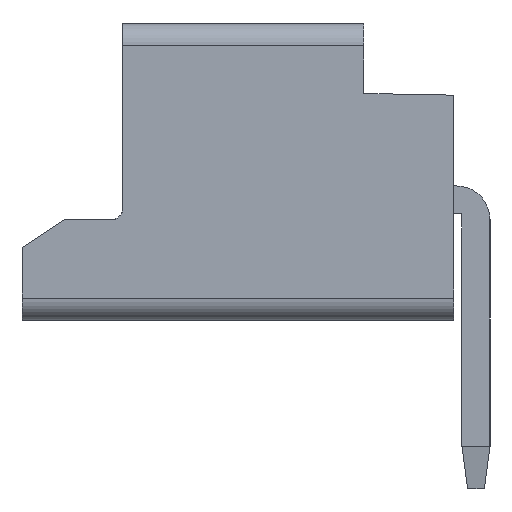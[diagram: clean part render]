
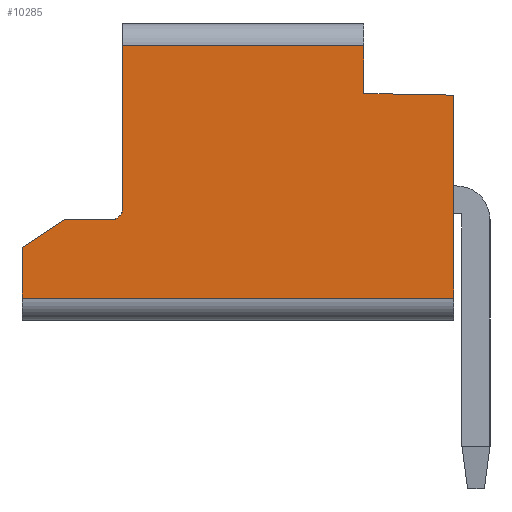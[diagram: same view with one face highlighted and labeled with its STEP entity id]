
A CAD part, left-side view. The second image highlights one B-rep face of the part: STEP entity #10285.
In plain terms, the highlighted planar face has unit normal (-1, 0, 0).
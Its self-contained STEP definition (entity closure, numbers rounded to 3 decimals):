
#124=CIRCLE('',#10921,0.2);
#967=FACE_OUTER_BOUND('',#1568,.T.);
#1568=EDGE_LOOP('',(#8987,#8988,#8989,#8990,#8991,#8992,#8993,#8994,#8995,
#8996));
#1766=LINE('',#13850,#3087);
#1772=LINE('',#13863,#3093);
#2758=LINE('',#15933,#4079);
#2808=LINE('',#16034,#4129);
#2809=LINE('',#16038,#4130);
#2810=LINE('',#16042,#4131);
#2852=LINE('',#16132,#4173);
#2853=LINE('',#16137,#4174);
#2854=LINE('',#16138,#4175);
#3087=VECTOR('',#11232,1000.);
#3093=VECTOR('',#11246,1000.);
#4079=VECTOR('',#13142,1000.);
#4129=VECTOR('',#13236,1000.);
#4130=VECTOR('',#13241,1000.);
#4131=VECTOR('',#13246,1000.);
#4173=VECTOR('',#13332,1000.);
#4174=VECTOR('',#13337,1000.);
#4175=VECTOR('',#13338,1000.);
#4370=VERTEX_POINT('',#13847);
#4371=VERTEX_POINT('',#13849);
#4374=VERTEX_POINT('',#13861);
#5003=VERTEX_POINT('',#15932);
#5032=VERTEX_POINT('',#16033);
#5033=VERTEX_POINT('',#16037);
#5034=VERTEX_POINT('',#16041);
#5060=VERTEX_POINT('',#16130);
#5061=VERTEX_POINT('',#16134);
#5062=VERTEX_POINT('',#16136);
#5255=EDGE_CURVE('',#4370,#4371,#1766,.T.);
#5262=EDGE_CURVE('',#4370,#4374,#1772,.T.);
#6286=EDGE_CURVE('',#4371,#5003,#2758,.T.);
#6337=EDGE_CURVE('',#5032,#5003,#2808,.T.);
#6339=EDGE_CURVE('',#5033,#5032,#2809,.T.);
#6341=EDGE_CURVE('',#5033,#5034,#2810,.T.);
#6386=EDGE_CURVE('',#5060,#4374,#2852,.T.);
#6387=EDGE_CURVE('',#5061,#5060,#124,.T.);
#6388=EDGE_CURVE('',#5062,#5061,#2853,.T.);
#6389=EDGE_CURVE('',#5062,#5034,#2854,.T.);
#8987=ORIENTED_EDGE('',*,*,#6386,.F.);
#8988=ORIENTED_EDGE('',*,*,#6387,.F.);
#8989=ORIENTED_EDGE('',*,*,#6388,.F.);
#8990=ORIENTED_EDGE('',*,*,#6389,.T.);
#8991=ORIENTED_EDGE('',*,*,#6341,.F.);
#8992=ORIENTED_EDGE('',*,*,#6339,.T.);
#8993=ORIENTED_EDGE('',*,*,#6337,.T.);
#8994=ORIENTED_EDGE('',*,*,#6286,.F.);
#8995=ORIENTED_EDGE('',*,*,#5255,.F.);
#8996=ORIENTED_EDGE('',*,*,#5262,.T.);
#9722=PLANE('',#10920);
#10285=ADVANCED_FACE('',(#967),#9722,.F.);
#10920=AXIS2_PLACEMENT_3D('',#16133,#13333,#13334);
#10921=AXIS2_PLACEMENT_3D('',#16135,#13335,#13336);
#11232=DIRECTION('',(0.,0.,-1.));
#11246=DIRECTION('',(0.,1.,0.));
#13142=DIRECTION('',(0.,-1.,-0.019));
#13236=DIRECTION('',(0.,0.,1.));
#13241=DIRECTION('',(0.,-1.,0.));
#13246=DIRECTION('',(0.,0.,1.));
#13332=DIRECTION('',(0.,0.,1.));
#13333=DIRECTION('center_axis',(1.,0.,0.));
#13334=DIRECTION('ref_axis',(0.,0.,-1.));
#13335=DIRECTION('center_axis',(-1.,0.,0.));
#13336=DIRECTION('ref_axis',(0.,-0.707,-0.707));
#13337=DIRECTION('',(0.,-1.,0.));
#13338=DIRECTION('',(0.,0.832,-0.555));
#13847=CARTESIAN_POINT('',(-21.292,-1.22,16.25));
#13849=CARTESIAN_POINT('',(-21.292,-1.22,15.4));
#13850=CARTESIAN_POINT('',(-21.292,-1.22,16.65));
#13861=CARTESIAN_POINT('',(-21.292,3.08,16.25));
#13863=CARTESIAN_POINT('',(-21.292,4.88,16.25));
#15932=CARTESIAN_POINT('',(-21.292,-2.82,15.37));
#15933=CARTESIAN_POINT('',(-21.292,-1.22,15.4));
#16033=CARTESIAN_POINT('',(-21.292,-2.82,11.75));
#16034=CARTESIAN_POINT('',(-21.292,-2.82,16.65));
#16037=CARTESIAN_POINT('',(-21.292,4.88,11.75));
#16038=CARTESIAN_POINT('',(-21.292,4.88,11.75));
#16041=CARTESIAN_POINT('',(-21.292,4.88,12.65));
#16042=CARTESIAN_POINT('',(-21.292,4.88,16.65));
#16130=CARTESIAN_POINT('',(-21.292,3.08,13.35));
#16132=CARTESIAN_POINT('',(-21.292,3.08,13.15));
#16133=CARTESIAN_POINT('Origin',(-21.292,4.88,16.65));
#16134=CARTESIAN_POINT('',(-21.292,3.28,13.15));
#16135=CARTESIAN_POINT('Origin',(-21.292,3.28,13.35));
#16136=CARTESIAN_POINT('',(-21.292,4.13,13.15));
#16137=CARTESIAN_POINT('',(-21.292,4.88,13.15));
#16138=CARTESIAN_POINT('',(-21.292,4.13,13.15));
